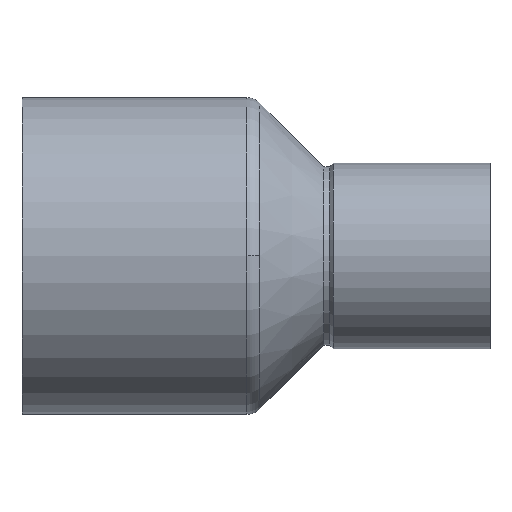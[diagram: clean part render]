
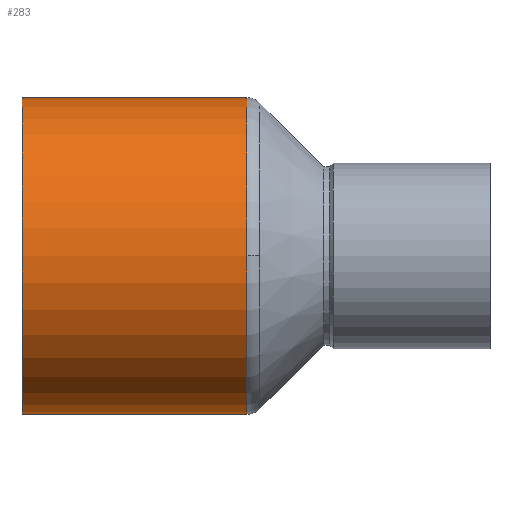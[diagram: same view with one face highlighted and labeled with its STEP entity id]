
A CAD part, top view. The second image highlights one B-rep face of the part: STEP entity #283.
In plain terms, the highlighted cylindrical face has radius 8.455 mm (diameter 16.91 mm), a partial arc.
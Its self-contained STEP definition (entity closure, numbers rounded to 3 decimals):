
#207=CARTESIAN_POINT('',(12.0,8.455,0.0));
#208=VERTEX_POINT('',#207);
#216=CARTESIAN_POINT('',(12.0,0.,8.455));
#217=VERTEX_POINT('',#216);
#218=CARTESIAN_POINT('',(12.0,0.0,0.0));
#219=DIRECTION('',(1.0,0.0,0.0));
#220=DIRECTION('',(0.0,1.0,0.0));
#221=AXIS2_PLACEMENT_3D('',#218,#219,#220);
#222=CIRCLE('',#221,8.455);
#223=EDGE_CURVE('',#208,#217,#222,.T.);
#243=CARTESIAN_POINT('',(6.,0.0,0.0));
#244=DIRECTION('',(1.0,0.0,0.0));
#245=DIRECTION('',(0.0,1.0,0.0));
#246=AXIS2_PLACEMENT_3D('',#243,#244,#245);
#247=CYLINDRICAL_SURFACE('',#246,8.455);
#248=CARTESIAN_POINT('',(0.0,8.455,0.0));
#249=VERTEX_POINT('',#248);
#250=CARTESIAN_POINT('',(0.0,8.455,0.0));
#251=DIRECTION('',(1.0,0.0,0.0));
#252=VECTOR('',#251,12.0);
#253=LINE('',#250,#252);
#254=EDGE_CURVE('',#249,#208,#253,.T.);
#255=ORIENTED_EDGE('',*,*,#254,.F.);
#256=CARTESIAN_POINT('',(0.0,-8.455,0.));
#257=VERTEX_POINT('',#256);
#258=CARTESIAN_POINT('',(0.0,0.0,0.0));
#259=DIRECTION('',(1.0,0.0,0.0));
#260=DIRECTION('',(0.0,1.0,0.0));
#261=AXIS2_PLACEMENT_3D('',#258,#259,#260);
#262=CIRCLE('',#261,8.455);
#263=EDGE_CURVE('',#249,#257,#262,.T.);
#264=ORIENTED_EDGE('',*,*,#263,.T.);
#265=CARTESIAN_POINT('',(12.0,-8.455,0.));
#266=VERTEX_POINT('',#265);
#267=CARTESIAN_POINT('',(12.0,-8.455,0.));
#268=DIRECTION('',(-1.0,0.0,0.0));
#269=VECTOR('',#268,12.0);
#270=LINE('',#267,#269);
#271=EDGE_CURVE('',#266,#257,#270,.T.);
#272=ORIENTED_EDGE('',*,*,#271,.F.);
#273=CARTESIAN_POINT('',(12.0,0.0,0.0));
#274=DIRECTION('',(1.0,0.0,0.0));
#275=DIRECTION('',(0.0,1.0,0.0));
#276=AXIS2_PLACEMENT_3D('',#273,#274,#275);
#277=CIRCLE('',#276,8.455);
#278=EDGE_CURVE('',#217,#266,#277,.T.);
#279=ORIENTED_EDGE('',*,*,#278,.F.);
#280=ORIENTED_EDGE('',*,*,#223,.F.);
#281=EDGE_LOOP('',(#255,#264,#272,#279,#280));
#282=FACE_OUTER_BOUND('',#281,.T.);
#283=ADVANCED_FACE('',(#282),#247,.T.);
